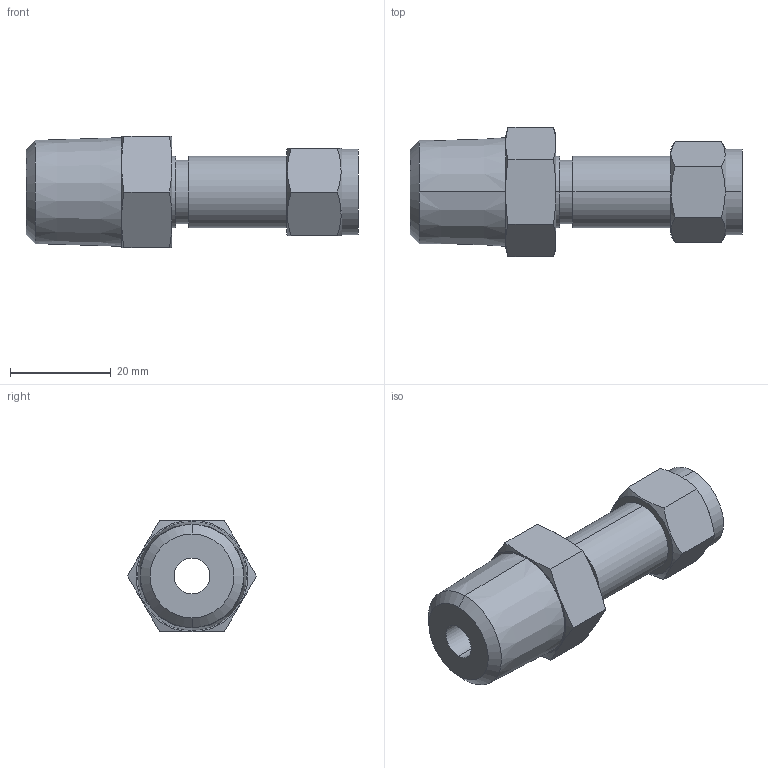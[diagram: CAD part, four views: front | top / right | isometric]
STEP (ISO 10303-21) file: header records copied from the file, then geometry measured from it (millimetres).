
FILE_DESCRIPTION (( 'STEP AP203' ), '1' );
FILE_NAME ('DSC06-08 SS.STEP', '2009-09-08T09:01:03', ( ' ' ), ( '' ), 'SwSTEP 2.0', 'SolidWorks 2008', '' );
FILE_SCHEMA (( 'CONFIG_CONTROL_DESIGN' ));
Length unit declared in the file: millimetre
Products named in the file (1): DSC06-08 SS
Bounding box: 66 x 25.67 x 22.23 mm (x, y, z)
Volume: 14771.4 mm3; surface area: 6359.6 mm2
Topology: 1 solids, 1 shells, 52 faces, 116 edges, 72 vertices
Faces by surface type: cone 20, plane 20, cylinder 12
Entity records: 1693 total; most frequent: CARTESIAN_POINT 497, ORIENTED_EDGE 232, DIRECTION 226, EDGE_CURVE 116, AXIS2_PLACEMENT_3D 97, VERTEX_POINT 72, EDGE_LOOP 60, FACE_OUTER_BOUND 52
